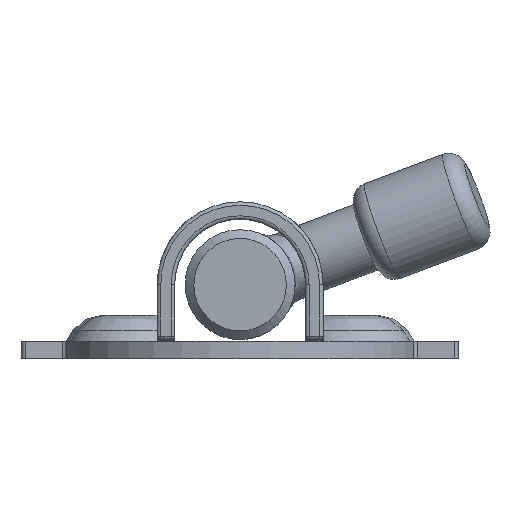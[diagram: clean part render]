
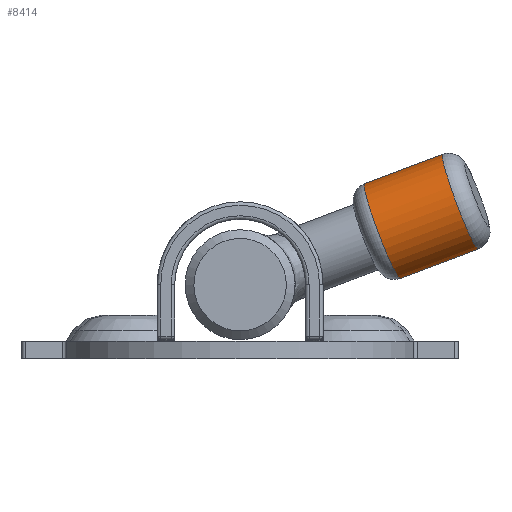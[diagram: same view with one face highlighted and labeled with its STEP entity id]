
A CAD part, left-side view. The second image highlights one B-rep face of the part: STEP entity #8414.
In plain terms, the highlighted cylindrical face has radius 2.9 mm (diameter 5.8 mm), a full revolution.
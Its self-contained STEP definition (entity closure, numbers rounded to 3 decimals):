
#1533=CYLINDRICAL_SURFACE('',#9023,2.9);
#1708=FACE_BOUND('',#2383,.T.);
#1811=FACE_OUTER_BOUND('',#2382,.T.);
#2382=EDGE_LOOP('',(#5920));
#2383=EDGE_LOOP('',(#5921));
#2947=CIRCLE('',#9022,2.9);
#2948=CIRCLE('',#9024,2.9);
#3553=VERTEX_POINT('',#12862);
#3554=VERTEX_POINT('',#12865);
#4420=EDGE_CURVE('',#3553,#3553,#2947,.T.);
#4421=EDGE_CURVE('',#3554,#3554,#2948,.T.);
#5920=ORIENTED_EDGE('',*,*,#4421,.F.);
#5921=ORIENTED_EDGE('',*,*,#4420,.F.);
#8414=ADVANCED_FACE('',(#1811,#1708),#1533,.T.);
#9022=AXIS2_PLACEMENT_3D('',#12863,#10207,#10208);
#9023=AXIS2_PLACEMENT_3D('',#12864,#10209,#10210);
#9024=AXIS2_PLACEMENT_3D('',#12866,#10211,#10212);
#10207=DIRECTION('center_axis',(-0.087,-0.996,
0.));
#10208=DIRECTION('ref_axis',(-0.996,0.087,0.));
#10209=DIRECTION('center_axis',(0.087,0.996,0.));
#10210=DIRECTION('ref_axis',(-0.996,0.087,0.));
#10211=DIRECTION('center_axis',(0.087,0.996,0.));
#10212=DIRECTION('ref_axis',(0.996,-0.087,0.));
#12862=CARTESIAN_POINT('',(39.876,8.462,0.));
#12863=CARTESIAN_POINT('Origin',(36.987,8.714,0.));
#12864=CARTESIAN_POINT('Origin',(37.196,11.11,0.));
#12865=CARTESIAN_POINT('',(34.517,13.754,0.));
#12866=CARTESIAN_POINT('Origin',(37.406,13.501,0.));
